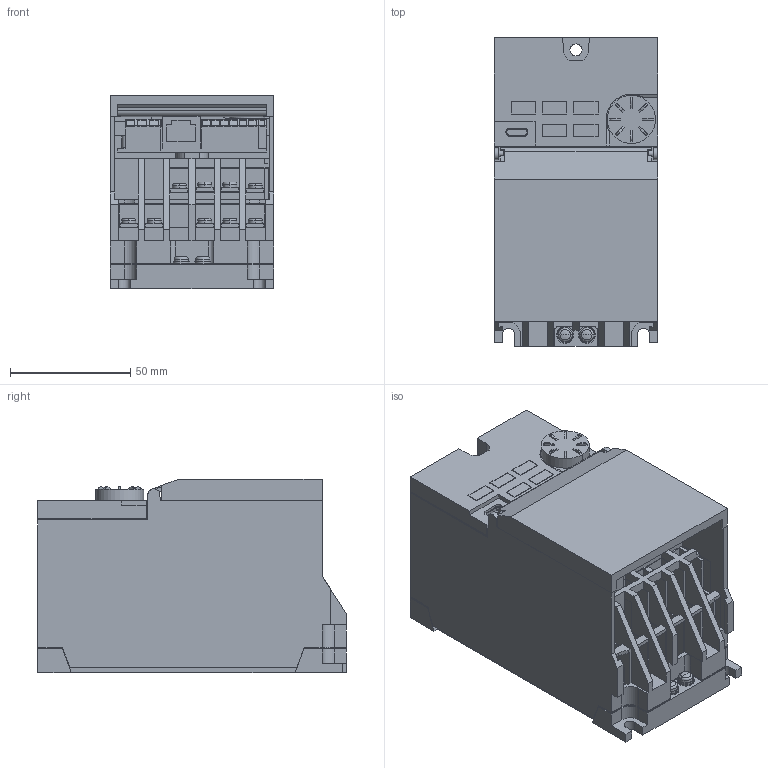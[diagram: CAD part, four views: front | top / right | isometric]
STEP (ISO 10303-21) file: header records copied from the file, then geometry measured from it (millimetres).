
FILE_DESCRIPTION((''),'2;1');
FILE_NAME('3D-INV-53_01_ASM','2024-11-27T15:46:25',('CT89920'),(''),'CREO PARAMETRIC BY PTC INC, 2022281','CREO PARAMETRIC BY PTC INC, 2022281','');
FILE_SCHEMA(('CONFIG_CONTROL_DESIGN','SHAPE_APPEARANCE_LAYERS_GROUPS'));
Length unit declared in the file: millimetre
Products named in the file (7): 3D-BASE-53_01; 3D-TE_SHORT-51_01; 3D-TE_NEJI-M3_5X8-ZA7; 3D-TE-NEJI-53_01_ASM; 3D-SW-PW-P-M3_5X10; 3D-S_COV-D80-0_75; 3D-INV-53_01_ASM
Assembly tree (15 placements, depth 3):
  3D-INV-53_01_ASM
    3D-BASE-53_01
    3D-TE-NEJI-53_01_ASM
      3D-TE_SHORT-51_01
      3D-TE_NEJI-M3_5X8-ZA7  x9
    3D-SW-PW-P-M3_5X10  x2
    3D-S_COV-D80-0_75
Bounding box: 68 x 128 x 80.5 mm (x, y, z)
Volume: 217413.9 mm3; surface area: 133610.9 mm2
Topology: 14 solids, 14 shells, 902 faces, 2425 edges, 1577 vertices
Faces by surface type: plane 720, cylinder 136, torus 22, extrusion 16, cone 4, sphere 4
Entity records: 30557 total; most frequent: CARTESIAN_POINT 5090, ORIENTED_EDGE 4334, DIRECTION 3951, EDGE_CURVE 2167, VECTOR 1927, LINE 1911, VERTEX_POINT 1414, AXIS2_PLACEMENT_3D 1012
